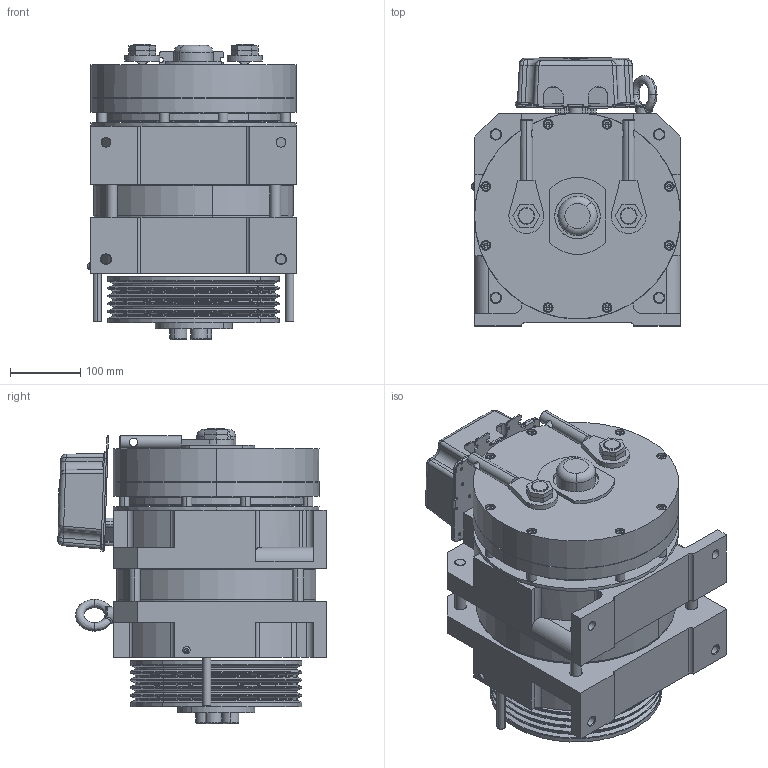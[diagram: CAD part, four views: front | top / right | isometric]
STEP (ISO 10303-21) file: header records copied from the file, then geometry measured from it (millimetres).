
FILE_DESCRIPTION (( 'STEP AP203' ), '1' );
FILE_NAME ('CSAG-E240-450.STEP', '2023-10-14T02:28:11', ( '' ), ( '' ), 'SwSTEP 2.0', 'SolidWorks 2016', '' );
FILE_SCHEMA (( 'CONFIG_CONTROL_DESIGN' ));
Length unit declared in the file: millimetre
Products named in the file (21): 晤鎢ん迖殤; 隅赽; SAG-E600秶雄ん; 結汋裝; 諉盄碟郪璃; hexagon socket head cap screws gb_GB_FASTENER_SCREWS_HSHCS M16X30-N; hexagon socket button head screws gb_GB_SOCKET_TYPE7 M6X10-N; 珝竘謫結啣2; 裂遠蹟隊-1; 珝竘謫240x7x朴6.5x11; 諉盄碟; hexagon socket head cap screws gb_GB_FASTENER_SCREWS_HSHCS M16X90-N; CSAG-E240-450; 諉盄碟假蚾啣; 耀攜晤鎢ん; hexagon socket head cap screws gb_GB_FASTENER_SCREWS_HSHCS M16X90-C; hexagon socket head cap screws gb_GB_FASTENER_SCREWS_HSHCS M8X80-N; YYLDG; 藻笠攫; ZZPDG; 諉盄碟假蚾殤
Assembly tree (32 placements, depth 3):
  CSAG-E240-450
    YYLDG
    ZZPDG
    珝竘謫240x7x朴6.5x11
    耀攜晤鎢ん
    隅赽
    藻笠攫
    SAG-E600秶雄ん
    晤鎢ん迖殤
    hexagon socket button head screws gb_GB_SOCKET_TYPE7 M6X10-N
    hexagon socket head cap screws gb_GB_FASTENER_SCREWS_HSHCS M8X80-N  x8
    結汋裝  x2
    珝竘謫結啣2
    hexagon socket head cap screws gb_GB_FASTENER_SCREWS_HSHCS M16X30-N  x3
    裂遠蹟隊-1
    諉盄碟郪璃
      諉盄碟假蚾殤
      諉盄碟假蚾啣
      諉盄碟
    hexagon socket head cap screws gb_GB_FASTENER_SCREWS_HSHCS M16X90-C
    hexagon socket head cap screws gb_GB_FASTENER_SCREWS_HSHCS M16X90-N  x3
Bounding box: 298.3 x 383.15 x 422 mm (x, y, z)
Volume: 16316747.2 mm3; surface area: 2052383.2 mm2
Topology: 35 solids, 37 shells, 1532 faces, 3704 edges, 2301 vertices
Faces by surface type: cylinder 628, plane 623, cone 146, torus 94, bspline 39, sphere 2
Entity records: 44156 total; most frequent: CARTESIAN_POINT 11244, DIRECTION 6703, ORIENTED_EDGE 6080, EDGE_CURVE 3040, AXIS2_PLACEMENT_3D 2605, VERTEX_POINT 1930, EDGE_LOOP 1534, VECTOR 1493
